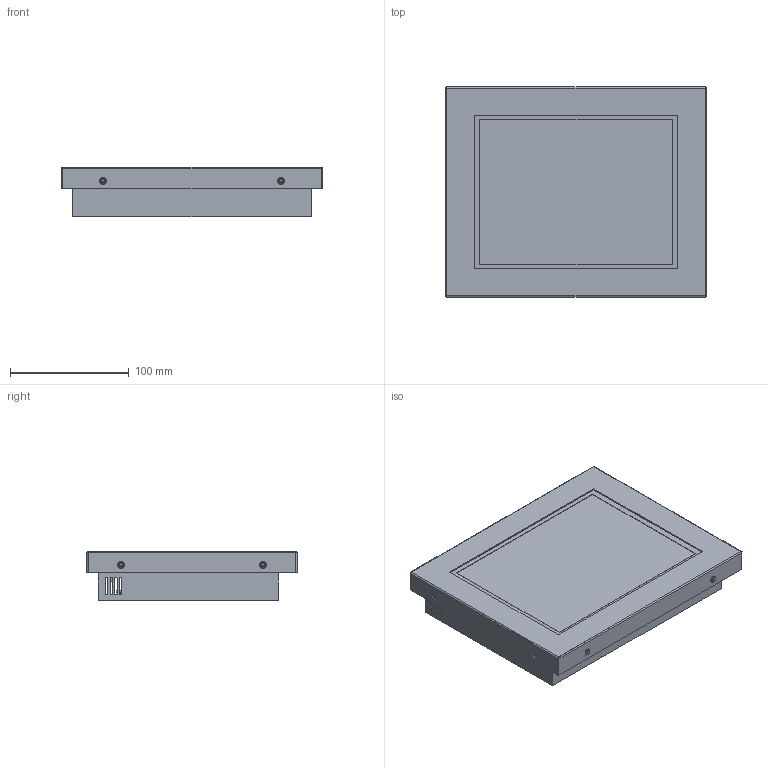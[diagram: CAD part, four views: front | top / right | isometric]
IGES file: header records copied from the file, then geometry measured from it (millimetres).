
Global section: file name: FIE084GM; native system: AutoCAD 2019 – 繁體中文 (Traditional Chinese),62HAutode; preprocessor: sk Translation Framework DWG producer (atf_dwg_producer); organization: unknown; date: 20210621.161642; units: millimetre
Bounding box: 220 x 177.4 x 41.5 mm (x, y, z)
Volume: 437021.3 mm3; surface area: 475942 mm2
Topology: 20 solids, 20 shells, 1200 faces, 3120 edges, 2140 vertices
Faces by surface type: bspline 1200
